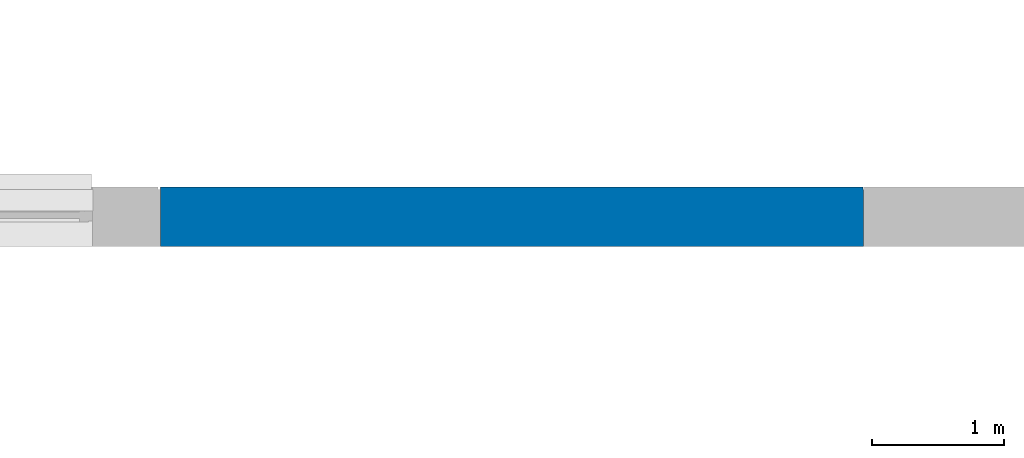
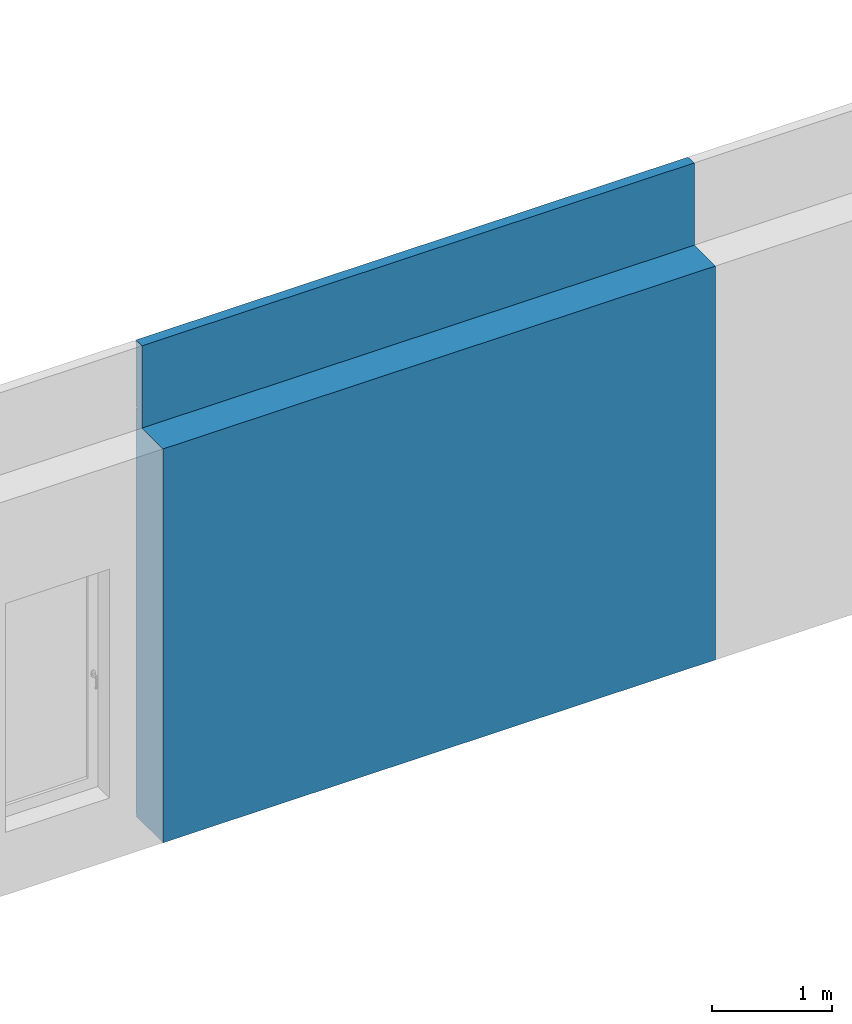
# One storey, part 25 of 33: 1 wall, 3 openings.
"""IFC2X3 building model written with IfcOpenShell, lengths in millimetres."""

from ifc_helpers import new_model, entity, si_unit, converted_unit, derived_unit, direction, frame, frame_2d, origin, place, context, subcontext, project, spatial, polyline, rectangle, extrude, clip, bounded_halfspace, faceted_brep, material, layer, layer_set, layer_usage, type_object, element, save


model = new_model("IFC2X3")

# Units and contexts
model_context = context("Model", 3, precision=0.01, world=origin(), true_north=direction((6.12303176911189e-17, 1.0)))
body_context = subcontext(model_context, "Body", "Model", "MODEL_VIEW")
ifc_project = project(units=[si_unit("LENGTHUNIT", "METRE", prefix="MILLI"), si_unit("AREAUNIT", "SQUARE_METRE"), si_unit("VOLUMEUNIT", "CUBIC_METRE"), converted_unit("PLANEANGLEUNIT", "DEGREE", entity("IfcRatioMeasure", 0.0174532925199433), si_unit("PLANEANGLEUNIT", "RADIAN"), dimensions=[0, 0, 0, 0, 0, 0, 0]), si_unit("MASSUNIT", "GRAM", prefix="KILO"), derived_unit("MASSDENSITYUNIT", [(si_unit("MASSUNIT", "GRAM", prefix="KILO"), 1), (si_unit("LENGTHUNIT", "METRE"), -3)]), si_unit("TIMEUNIT", "SECOND"), si_unit("FREQUENCYUNIT", "HERTZ"), si_unit("THERMODYNAMICTEMPERATUREUNIT", "DEGREE_CELSIUS"), derived_unit("THERMALTRANSMITTANCEUNIT", [(si_unit("MASSUNIT", "GRAM", prefix="KILO"), 1), (si_unit("THERMODYNAMICTEMPERATUREUNIT", "KELVIN"), -1), (si_unit("TIMEUNIT", "SECOND"), -3)]), derived_unit("VOLUMETRICFLOWRATEUNIT", [(si_unit("LENGTHUNIT", "METRE"), 3), (si_unit("TIMEUNIT", "SECOND"), -1)]), si_unit("ELECTRICCURRENTUNIT", "AMPERE"), si_unit("ELECTRICVOLTAGEUNIT", "VOLT"), si_unit("POWERUNIT", "WATT"), si_unit("FORCEUNIT", "NEWTON", prefix="KILO"), si_unit("ILLUMINANCEUNIT", "LUX"), si_unit("LUMINOUSFLUXUNIT", "LUMEN"), si_unit("LUMINOUSINTENSITYUNIT", "CANDELA"), derived_unit("USERDEFINED", [(si_unit("MASSUNIT", "GRAM", prefix="KILO"), -1), (si_unit("LENGTHUNIT", "METRE"), -2), (si_unit("TIMEUNIT", "SECOND"), 3), (si_unit("LUMINOUSFLUXUNIT", "LUMEN"), 1)]), derived_unit("LINEARVELOCITYUNIT", [(si_unit("LENGTHUNIT", "METRE"), 1), (si_unit("TIMEUNIT", "SECOND"), -1)]), si_unit("PRESSUREUNIT", "PASCAL"), derived_unit("USERDEFINED", [(si_unit("LENGTHUNIT", "METRE"), -2), (si_unit("MASSUNIT", "GRAM", prefix="KILO"), 1), (si_unit("TIMEUNIT", "SECOND"), -2)])], contexts=[model_context])

# Site, building, storey
site_placement = place(None, origin())
site = spatial("IfcSite", under=ifc_project, at=site_placement, Name="Default", CompositionType="ELEMENT")
building_placement = place(site_placement, origin())
building = spatial("IfcBuilding", under=site, at=building_placement, CompositionType="ELEMENT")
storey_placement = place(building_placement, frame((0.0, 0.0, 4000.0)))
storey = spatial("IfcBuildingStorey", under=building, at=storey_placement, Name="2. KORRUS", CompositionType="ELEMENT", Elevation=4000.0)

# Wall, openings
ifc_material_1 = material(Name="RECKLI 1 173 THUR by Polantis 2016-toon1")
ifc_layer_1 = layer(ifc_material_1, 100.0)
ifc_material_2 = material(Name="Soojusisolatsioon EPS")
ifc_layer_2 = layer(ifc_material_2, 200.0)
ifc_material_3 = material(Name="r/b")
ifc_layer_3 = layer(ifc_material_3, 150.0)
ifc_layer_set = layer_set([ifc_layer_1, ifc_layer_2, ifc_layer_3], Name="Basic Wall:VS-1_toon-d")
ifc_layer_usage = layer_usage(ifc_layer_set, "AXIS2", "NEGATIVE", 225.0)
wall_type = type_object("IfcWallType", Name="Basic Wall:VS-1_toon-d", PredefinedType="STANDARD", material=ifc_layer_set)
wall_placement = place(storey_placement, frame((28663.2161487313, 21725.0517807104, -135.0)))
wall = element("IfcWallStandardCase", 1, at=wall_placement, inside=storey, type_object=wall_type, material=ifc_layer_usage, Name="Basic Wall:VS-1_toon-d", ObjectType="Basic Wall:VS-1_toon-d", context=body_context, shape_type="Clipping", body=[
    clip(clip(extrude(rectangle(XDim=5306.88742148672, YDim=450.000000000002, at=frame_2d((2653.44371074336, -1.27897692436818e-13), x_axis=(-1.0, 0.0))), origin(), (0.0, 0.0, 1.0), 4835.0), bounded_halfspace(frame((0.0, -225.0, 4000.0), z_axis=(0.0, 0.0, 1.0), x_axis=(0.0, 1.0, 0.0)), False, frame((0.0, -225.0, 4000.0)), polyline([(0.0, 0.0), (5306.88742148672, 0.0), (5306.88742148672, 350.0), (0.0, 350.0), (0.0, 0.0)]))), bounded_halfspace(frame((0.0, -225.0, 4000.0), z_axis=(0.0, 0.0, 1.0), x_axis=(0.0, 1.0, 0.0)), False, frame((0.0, -225.0, 4000.0)), polyline([(0.0, 0.0), (5306.88742148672, 0.0), (5306.88742148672, 350.0), (0.0, 350.0), (0.0, 0.0)]))),
])
opening_1_placement = place(wall_placement, origin())
element("IfcOpeningElement", 2, at=opening_1_placement, cuts=wall, Name="Basic Wall:VS-1_toon-d", ObjectType="Recess", context=body_context, shape_type="SweptSolid", body=[
    extrude(rectangle(XDim=4265.0, YDim=16.0000000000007, at=frame_2d((0.0, 2.16626716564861e-12), x_axis=(1.0, 0.0))), frame((5309.78385126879, 205.0, -2132.5), z_axis=(0.0, 1.0, 0.0), x_axis=(0.0, 0.0, 1.0)), (0.0, 0.0, 1.0), 19.9999999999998),
    extrude(rectangle(XDim=4835.0, YDim=16.0000000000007, at=frame_2d((2.27373675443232e-13, 2.16626716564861e-12), x_axis=(1.0, 0.0))), frame((5309.78385126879, 205.0, 2417.5), z_axis=(0.0, 1.0, 0.0), x_axis=(0.0, 0.0, 1.0)), (0.0, 0.0, 1.0), 19.9999999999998),
])
opening_2_placement = place(wall_placement, frame((-29113.2161487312, -22175.0517807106, 4.0)))
element("IfcOpeningElement", 3, at=opening_2_placement, cuts=wall, Name="Basic Wall:VS-1_toon-d", ObjectType="Opening", context=body_context, shape_type="Brep", body=[
    faceted_brep([(11850.0, 20.0, 16.0), (11850.0, 0.0, 16.0), (11850.0, 0.0, 0.0), (11850.0, 20.0, 0.0), (4260.0, 20.0, 16.0), (4260.0, 20.0, 0.0), (4260.0, 0.0, 0.0), (4260.0, 0.0, 16.0)], [[[0, 1, 2, 3]], [[4, 5, 6, 7]], [[1, 0, 4, 7]], [[2, 1, 7, 6]], [[3, 2, 6, 5]], [[0, 3, 5, 4]]]),
    faceted_brep([(20.0, 28480.0, 16.0), (20.0, 28480.0, 0.0), (0.0, 28500.0, 0.0), (0.0, 28500.0, 16.0), (20.0, 23740.0, 16.0), (0.0, 23740.0, 16.0), (0.0, 23740.0, 0.0), (20.0, 23740.0, 0.0)], [[[0, 1, 2, 3]], [[4, 5, 6, 7]], [[1, 0, 4, 7]], [[2, 1, 7, 6]], [[3, 2, 6, 5]], [[0, 3, 5, 4]]]),
    faceted_brep([(10080.0, 22380.0517807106, 16.0), (10100.0, 22400.0517807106, 16.0), (10100.0, 22400.0517807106, 0.0), (10080.0, 22380.0517807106, 0.0), (15330.3475962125, 22380.0517807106, 16.0), (15330.3475962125, 22380.0517807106, 0.0), (15330.3475962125, 22400.0517807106, 0.0), (15330.3475962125, 22400.0517807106, 16.0)], [[[0, 1, 2, 3]], [[4, 5, 6, 7]], [[1, 0, 4, 7]], [[2, 1, 7, 6]], [[3, 2, 6, 5]], [[0, 3, 5, 4]]]),
    faceted_brep([(20.0, 28480.0, 16.0), (0.0, 28500.0, 16.0), (0.0, 28500.0, 0.0), (20.0, 28480.0, 0.0), (4360.0, 28480.0, 16.0), (4360.0, 28480.0, 0.0), (4360.0, 28500.0, 0.0), (4360.0, 28500.0, 16.0)], [[[0, 1, 2, 3]], [[4, 5, 6, 7]], [[1, 0, 4, 7]], [[2, 1, 7, 6]], [[3, 2, 6, 5]], [[0, 3, 5, 4]]]),
    faceted_brep([(40380.0, 20.0, 16.0), (40400.0, 0.0, 16.0), (40400.0, 0.0, 0.0), (40380.0, 20.0, 0.0), (35250.0, 20.0, 16.0), (35250.0, 20.0, 0.0), (35250.0, 0.0, 0.0), (35250.0, 0.0, 16.0)], [[[0, 1, 2, 3]], [[4, 5, 6, 7]], [[1, 0, 4, 7]], [[2, 1, 7, 6]], [[3, 2, 6, 5]], [[0, 3, 5, 4]]]),
    faceted_brep([(34420.1035702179, 22380.0517807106, 16.0), (34420.1035702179, 22400.0517807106, 16.0), (34420.1035702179, 22400.0517807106, 0.0), (34420.1035702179, 22380.0517807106, 0.0), (40380.0, 22380.0517807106, 16.0), (40380.0, 22380.0517807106, 0.0), (40400.0, 22400.0517807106, 0.0), (40400.0, 22400.0517807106, 16.0)], [[[0, 1, 2, 3]], [[4, 5, 6, 7]], [[1, 0, 4, 7]], [[2, 1, 7, 6]], [[3, 2, 6, 5]], [[0, 3, 5, 4]]]),
    faceted_brep([(29113.2161487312, 22380.0517807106, 16.0), (29113.2161487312, 22400.0517807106, 16.0), (29113.2161487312, 22400.0517807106, 0.0), (29113.2161487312, 22380.0517807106, 0.0), (34420.1035702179, 22380.0517807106, 16.0), (34420.1035702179, 22380.0517807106, 0.0), (34420.1035702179, 22400.0517807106, 0.0), (34420.1035702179, 22400.0517807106, 16.0)], [[[0, 1, 2, 3]], [[4, 5, 6, 7]], [[1, 0, 4, 7]], [[2, 1, 7, 6]], [[3, 2, 6, 5]], [[0, 3, 5, 4]]]),
    faceted_brep([(10080.0, 28480.0, 16.0), (10100.0, 28500.0, 16.0), (10100.0, 28500.0, 0.0), (10080.0, 28480.0, 0.0), (10080.0, 22380.0517807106, 16.0), (10080.0, 22380.0517807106, 0.0), (10100.0, 22400.0517807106, 0.0), (10100.0, 22400.0517807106, 16.0)], [[[0, 1, 2, 3]], [[4, 5, 6, 7]], [[1, 0, 4, 7]], [[2, 1, 7, 6]], [[3, 2, 6, 5]], [[0, 3, 5, 4]]]),
    faceted_brep([(4260.0, 20.0, 16.0), (4260.0, 0.0, 16.0), (4260.0, 0.0, 0.0), (4260.0, 20.0, 0.0), (0.0, 20.0, 16.0), (0.0, 20.0, 0.0), (0.0, 0.0, 0.0), (0.0, 0.0, 16.0)], [[[0, 1, 2, 3]], [[4, 5, 6, 7]], [[1, 0, 4, 7]], [[2, 1, 7, 6]], [[3, 2, 6, 5]], [[0, 3, 5, 4]]]),
    faceted_brep([(40380.0, 4865.0, 16.0), (40400.0, 4865.0, 16.0), (40400.0, 4865.0, 0.0), (40380.0, 4865.0, 0.0), (40380.0, 20.0, 16.0), (40380.0, 20.0, 0.0), (40400.0, 0.0, 0.0), (40400.0, 0.0, 16.0)], [[[0, 1, 2, 3]], [[4, 5, 6, 7]], [[1, 0, 4, 7]], [[2, 1, 7, 6]], [[3, 2, 6, 5]], [[0, 3, 5, 4]]]),
    faceted_brep([(40380.0, 9093.33000000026, 16.0), (40400.0, 9093.33000000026, 16.0), (40400.0, 9093.33000000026, 0.0), (40380.0, 9093.33000000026, 0.0), (40380.0, 4865.0, 16.0), (40380.0, 4865.0, 0.0), (40400.0, 4865.0, 0.0), (40400.0, 4865.0, 16.0)], [[[0, 1, 2, 3]], [[4, 5, 6, 7]], [[1, 0, 4, 7]], [[2, 1, 7, 6]], [[3, 2, 6, 5]], [[0, 3, 5, 4]]]),
    faceted_brep([(40380.0, 13210.0, 16.0), (40400.0, 13210.0, 16.0), (40400.0, 13210.0, 0.0), (40380.0, 13210.0, 0.0), (40380.0, 9093.33000000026, 16.0), (40380.0, 9093.33000000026, 0.0), (40400.0, 9093.33000000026, 0.0), (40400.0, 9093.33000000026, 16.0)], [[[0, 1, 2, 3]], [[4, 5, 6, 7]], [[1, 0, 4, 7]], [[2, 1, 7, 6]], [[3, 2, 6, 5]], [[0, 3, 5, 4]]]),
    faceted_brep([(40380.0, 16240.0, 16.0), (40400.0, 16240.0, 16.0), (40400.0, 16240.0, 0.0), (40380.0, 16240.0, 0.0), (40380.0, 13210.0, 16.0), (40380.0, 13210.0, 0.0), (40400.0, 13210.0, 0.0), (40400.0, 13210.0, 16.0)], [[[0, 1, 2, 3]], [[4, 5, 6, 7]], [[1, 0, 4, 7]], [[2, 1, 7, 6]], [[3, 2, 6, 5]], [[0, 3, 5, 4]]]),
    faceted_brep([(40380.0, 22380.0517807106, 16.0), (40400.0, 22400.0517807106, 16.0), (40400.0, 22400.0517807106, 0.0), (40380.0, 22380.0517807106, 0.0), (40380.0, 16240.0, 16.0), (40380.0, 16240.0, 0.0), (40400.0, 16240.0, 0.0), (40400.0, 16240.0, 16.0)], [[[0, 1, 2, 3]], [[4, 5, 6, 7]], [[1, 0, 4, 7]], [[2, 1, 7, 6]], [[3, 2, 6, 5]], [[0, 3, 5, 4]]]),
    faceted_brep([(22535.0, 22380.0517807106, 16.0), (22535.0, 22400.0517807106, 16.0), (22535.0, 22400.0517807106, 0.0), (22535.0, 22380.0517807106, 0.0), (29113.2161487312, 22380.0517807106, 16.0), (29113.2161487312, 22380.0517807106, 0.0), (29113.2161487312, 22400.0517807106, 0.0), (29113.2161487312, 22400.0517807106, 16.0)], [[[0, 1, 2, 3]], [[4, 5, 6, 7]], [[1, 0, 4, 7]], [[2, 1, 7, 6]], [[3, 2, 6, 5]], [[0, 3, 5, 4]]]),
    faceted_brep([(18703.3528910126, 22380.0517807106, 16.0), (18703.3528910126, 22400.0517807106, 16.0), (18703.3528910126, 22400.0517807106, 0.0), (18703.3528910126, 22380.0517807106, 0.0), (22535.0, 22380.0517807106, 16.0), (22535.0, 22380.0517807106, 0.0), (22535.0, 22400.0517807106, 0.0), (22535.0, 22400.0517807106, 16.0)], [[[0, 1, 2, 3]], [[4, 5, 6, 7]], [[1, 0, 4, 7]], [[2, 1, 7, 6]], [[3, 2, 6, 5]], [[0, 3, 5, 4]]]),
    faceted_brep([(15330.3475962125, 22380.0517807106, 16.0), (15330.3475962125, 22400.0517807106, 16.0), (15330.3475962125, 22400.0517807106, 0.0), (15330.3475962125, 22380.0517807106, 0.0), (18703.3528910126, 22380.0517807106, 16.0), (18703.3528910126, 22380.0517807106, 0.0), (18703.3528910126, 22400.0517807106, 0.0), (18703.3528910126, 22400.0517807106, 16.0)], [[[0, 1, 2, 3]], [[4, 5, 6, 7]], [[1, 0, 4, 7]], [[2, 1, 7, 6]], [[3, 2, 6, 5]], [[0, 3, 5, 4]]]),
    faceted_brep([(4360.0, 28480.0, 16.0), (4360.0, 28500.0, 16.0), (4360.0, 28500.0, 0.0), (4360.0, 28480.0, 0.0), (10080.0, 28480.0, 16.0), (10080.0, 28480.0, 0.0), (10100.0, 28500.0, 0.0), (10100.0, 28500.0, 16.0)], [[[0, 1, 2, 3]], [[4, 5, 6, 7]], [[1, 0, 4, 7]], [[2, 1, 7, 6]], [[3, 2, 6, 5]], [[0, 3, 5, 4]]]),
    faceted_brep([(20.0, 23740.0, 16.0), (20.0, 23740.0, 0.0), (0.0, 23740.0, 0.0), (0.0, 23740.0, 16.0), (20.0, 16890.0006972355, 16.0), (0.0, 16890.0006972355, 16.0), (0.0, 16890.0006972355, 0.0), (20.0, 16890.0006972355, 0.0)], [[[0, 1, 2, 3]], [[4, 5, 6, 7]], [[1, 0, 4, 7]], [[2, 1, 7, 6]], [[3, 2, 6, 5]], [[0, 3, 5, 4]]]),
    faceted_brep([(20.0, 16890.0006972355, 16.0), (20.0, 16890.0006972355, 0.0), (0.0, 16890.0006972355, 0.0), (0.0, 16890.0006972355, 16.0), (20.0, 13460.0, 16.0), (0.0, 13460.0, 16.0), (0.0, 13460.0, 0.0), (20.0, 13460.0, 0.0)], [[[0, 1, 2, 3]], [[4, 5, 6, 7]], [[1, 0, 4, 7]], [[2, 1, 7, 6]], [[3, 2, 6, 5]], [[0, 3, 5, 4]]]),
])
opening_3_placement = place(wall_placement, origin())
element("IfcOpeningElement", 4, at=opening_3_placement, cuts=wall, Name="Basic Wall:VS-1_toon-d", ObjectType="Opening", context=body_context, shape_type="SweptSolid", body=[
    extrude(rectangle(XDim=15.9999999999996, YDim=7590.0, at=frame_2d((0.0, -5.40900657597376e-13), x_axis=(0.0, 1.0))), frame((-21058.2161487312, -22175.0517807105, 4147.0), z_axis=(0.0, 1.0, 0.0), x_axis=(-1.0, 0.0, 0.0)), (0.0, 0.0, 1.0), 20.0),
    extrude(rectangle(XDim=15.9999999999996, YDim=20.0, at=frame_2d((5.40900657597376e-13, -3.37507799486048e-14), x_axis=(1.0, 0.0))), frame((-29103.2161487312, 1564.94821928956, 4147.0), z_axis=(0.0, 1.0, 0.0), x_axis=(0.0, 0.0, -1.0)), (0.0, 0.0, 1.0), 4660.0),
    extrude(rectangle(XDim=15.9999999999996, YDim=5230.3475962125, at=frame_2d((0.0, 5.40900657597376e-13), x_axis=(0.0, 1.0))), frame((-16398.042350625, 205.0, 4147.0), z_axis=(0.0, 1.0, 0.0), x_axis=(1.0, 0.0, 0.0)), (0.0, 0.0, 1.0), 19.9999999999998),
    extrude(rectangle(XDim=15.9999999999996, YDim=4360.0, at=frame_2d((0.0, 5.40900657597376e-13), x_axis=(0.0, 1.0))), frame((-26933.2161487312, 6304.94821928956, 4147.0), z_axis=(0.0, 1.0, 0.0), x_axis=(1.0, 0.0, 0.0)), (0.0, 0.0, 1.0), 19.9999999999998),
    extrude(rectangle(XDim=15.9999999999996, YDim=5050.0, at=frame_2d((2.27373675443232e-12, 0.0), x_axis=(0.0, 1.0))), frame((8661.78385126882, -22175.0517807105, 4147.0), z_axis=(0.0, 1.0, 0.0), x_axis=(-1.0, 0.0, 0.0)), (0.0, 0.0, 1.0), 20.0),
    extrude(rectangle(XDim=15.9999999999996, YDim=5979.89642978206, at=frame_2d((-2.27373675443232e-12, 0.0), x_axis=(0.0, 1.0))), frame((8296.83563637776, 205.0, 4147.0), z_axis=(0.0, 1.0, 0.0), x_axis=(1.0, 0.0, 0.0)), (0.0, 0.0, 1.0), 19.9999999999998),
    extrude(rectangle(XDim=15.9999999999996, YDim=5306.88742148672, at=frame_2d((2.04636307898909e-12, 5.40900657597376e-13), x_axis=(0.0, 1.0))), frame((2653.44371074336, 205.0, 4147.0), z_axis=(0.0, 1.0, 0.0), x_axis=(1.0, 0.0, 0.0)), (0.0, 0.0, 1.0), 19.9999999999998),
    extrude(rectangle(XDim=15.9999999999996, YDim=19.9999999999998, at=frame_2d((0.0, 5.40900657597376e-13), x_axis=(0.0, 1.0))), frame((-19023.2161487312, 125.0, 4147.0), z_axis=(0.0, 1.0, 0.0), x_axis=(1.0, 0.0, 0.0)), (0.0, 0.0, 1.0), 6099.94821928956),
    extrude(rectangle(XDim=15.9999999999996, YDim=4160.00000000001, at=frame_2d((0.0, -5.40900657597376e-13), x_axis=(0.0, 1.0))), frame((-26933.2161487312, -22175.0517807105, 4147.0), z_axis=(0.0, 1.0, 0.0), x_axis=(-1.0, 0.0, 0.0)), (0.0, 0.0, 1.0), 20.0),
    extrude(rectangle(XDim=15.9999999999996, YDim=20.0000000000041, at=frame_2d((4.33164615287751e-12, 5.40900657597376e-13), x_axis=(0.0, 1.0))), frame((11276.7838512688, -22175.0517807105, 4147.0), z_axis=(0.0, 1.0, 0.0), x_axis=(1.0, 0.0, 0.0)), (0.0, 0.0, 1.0), 4865.0),
    extrude(rectangle(XDim=15.9999999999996, YDim=20.0000000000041, at=frame_2d((-4.33164615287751e-12, -5.40900657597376e-13), x_axis=(0.0, 1.0))), frame((11276.7838512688, -17310.0517807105, 4147.0), z_axis=(0.0, 1.0, 0.0), x_axis=(1.0, 0.0, 0.0)), (0.0, 0.0, 1.0), 4228.33000000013),
    extrude(rectangle(XDim=15.9999999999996, YDim=20.0000000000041, at=frame_2d((-4.33164615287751e-12, -5.40900657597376e-13), x_axis=(0.0, 1.0))), frame((11276.7838512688, -13081.7217807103, 4147.0), z_axis=(0.0, 1.0, 0.0), x_axis=(1.0, 0.0, 0.0)), (0.0, 0.0, 1.0), 4236.66999997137),
    extrude(rectangle(XDim=15.9999999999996, YDim=20.0000000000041, at=frame_2d((4.33164615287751e-12, 5.40900657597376e-13), x_axis=(0.0, 1.0))), frame((11276.7838512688, -8845.05178073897, 4147.0), z_axis=(0.0, 1.0, 0.0), x_axis=(1.0, 0.0, 0.0)), (0.0, 0.0, 1.0), 2910.00000002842),
    extrude(rectangle(XDim=15.9999999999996, YDim=20.0000000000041, at=frame_2d((-4.33164615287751e-12, 5.40900657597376e-13), x_axis=(0.0, 1.0))), frame((11276.7838512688, -5935.05178071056, 4147.0), z_axis=(0.0, 1.0, 0.0), x_axis=(1.0, 0.0, 0.0)), (0.0, 0.0, 1.0), 6060.05178071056),
    extrude(rectangle(XDim=15.9999999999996, YDim=3831.64710898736, at=frame_2d((1.13686837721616e-12, 5.40900657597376e-13), x_axis=(0.0, 1.0))), frame((-8494.03970322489, 205.0, 4147.0), z_axis=(0.0, 1.0, 0.0), x_axis=(1.0, 0.0, 0.0)), (0.0, 0.0, 1.0), 19.9999999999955),
    extrude(rectangle(XDim=15.9999999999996, YDim=3373.00529480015, at=frame_2d((0.0, 5.40900657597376e-13), x_axis=(0.0, 1.0))), frame((-12096.3659051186, 205.0, 4147.0), z_axis=(0.0, 1.0, 0.0), x_axis=(1.0, 0.0, 0.0)), (0.0, 0.0, 1.0), 19.9999999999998),
    extrude(rectangle(XDim=15.9999999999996, YDim=5739.99999999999, at=frame_2d((-2.27373675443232e-13, 5.40900657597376e-13), x_axis=(0.0, 1.0))), frame((-21883.2161487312, 6304.94821928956, 4147.0), z_axis=(0.0, 1.0, 0.0), x_axis=(1.0, 0.0, 0.0)), (0.0, 0.0, 1.0), 19.9999999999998),
    extrude(rectangle(XDim=15.9999999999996, YDim=20.0, at=frame_2d((5.40900657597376e-13, -3.37507799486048e-14), x_axis=(1.0, 0.0))), frame((-29103.2161487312, -5285.05108347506, 4147.0), z_axis=(0.0, 1.0, 0.0), x_axis=(0.0, 0.0, -1.0)), (0.0, 0.0, 1.0), 6849.99930276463),
    extrude(rectangle(XDim=15.9999999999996, YDim=20.0, at=frame_2d((5.40900657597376e-13, 3.37507799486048e-14), x_axis=(1.0, 0.0))), frame((-29103.2161487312, -8715.05178073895, 4147.0), z_axis=(0.0, 1.0, 0.0), x_axis=(0.0, 0.0, -1.0)), (0.0, 0.0, 1.0), 3430.00069726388),
    extrude(rectangle(XDim=15.9999999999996, YDim=6578.21614873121, at=frame_2d((0.0, 5.40900657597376e-13), x_axis=(0.0, 1.0))), frame((-3289.1080743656, 205.0, 4147.0), z_axis=(0.0, 1.0, 0.0), x_axis=(1.0, 0.0, 0.0)), (0.0, 0.0, 1.0), 19.9999999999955),
    extrude(rectangle(XDim=15.9999999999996, YDim=4110.0, at=frame_2d((1.13686837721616e-12, -5.40900657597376e-13), x_axis=(0.0, 1.0))), frame((-15208.2161487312, -22175.0517807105, 4147.0), z_axis=(0.0, 1.0, 0.0), x_axis=(-1.0, 0.0, 0.0)), (0.0, 0.0, 1.0), 19.9999999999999),
    extrude(rectangle(XDim=15.9999999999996, YDim=4600.0, at=frame_2d((-2.27373675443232e-12, -5.40900657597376e-13), x_axis=(0.0, 1.0))), frame((-10853.2161487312, -22175.0517807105, 4147.0), z_axis=(0.0, 1.0, 0.0), x_axis=(-1.0, 0.0, 0.0)), (0.0, 0.0, 1.0), 20.0),
    extrude(rectangle(XDim=15.9999999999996, YDim=4600.0, at=frame_2d((2.27373675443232e-12, -5.40900657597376e-13), x_axis=(0.0, 1.0))), frame((-6253.21614873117, -22175.0517807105, 4147.0), z_axis=(0.0, 1.0, 0.0), x_axis=(-1.0, 0.0, 0.0)), (0.0, 0.0, 1.0), 20.0),
    extrude(rectangle(XDim=15.9999999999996, YDim=5299.99999999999, at=frame_2d((-2.04636307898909e-12, -5.40900657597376e-13), x_axis=(0.0, 1.0))), frame((-1303.21614873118, -22175.0517807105, 4147.0), z_axis=(0.0, 1.0, 0.0), x_axis=(-1.0, 0.0, 0.0)), (0.0, 0.0, 1.0), 20.0),
    extrude(rectangle(XDim=15.9999999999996, YDim=4790.0, at=frame_2d((0.0, -5.40900657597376e-13), x_axis=(0.0, 1.0))), frame((3741.78385126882, -22175.0517807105, 4147.0), z_axis=(0.0, 1.0, 0.0), x_axis=(-1.0, 0.0, 0.0)), (0.0, 0.0, 1.0), 20.0000000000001),
    extrude(rectangle(XDim=15.9999999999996, YDim=20.0, at=frame_2d((5.40900657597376e-13, -3.37507799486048e-14), x_axis=(1.0, 0.0))), frame((-29103.2161487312, -13439.9109855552, 4147.0), z_axis=(0.0, 1.0, 0.0), x_axis=(0.0, 0.0, -1.0)), (0.0, 0.0, 1.0), 4724.85920481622),
    extrude(rectangle(XDim=15.9999999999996, YDim=20.0, at=frame_2d((5.40900657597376e-13, -3.37507799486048e-14), x_axis=(1.0, 0.0))), frame((-29103.2161487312, -22175.0517807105, 4147.0), z_axis=(0.0, 1.0, 0.0), x_axis=(0.0, 0.0, -1.0)), (0.0, 0.0, 1.0), 8735.1407951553),
])

save(model, "model.ifc")
